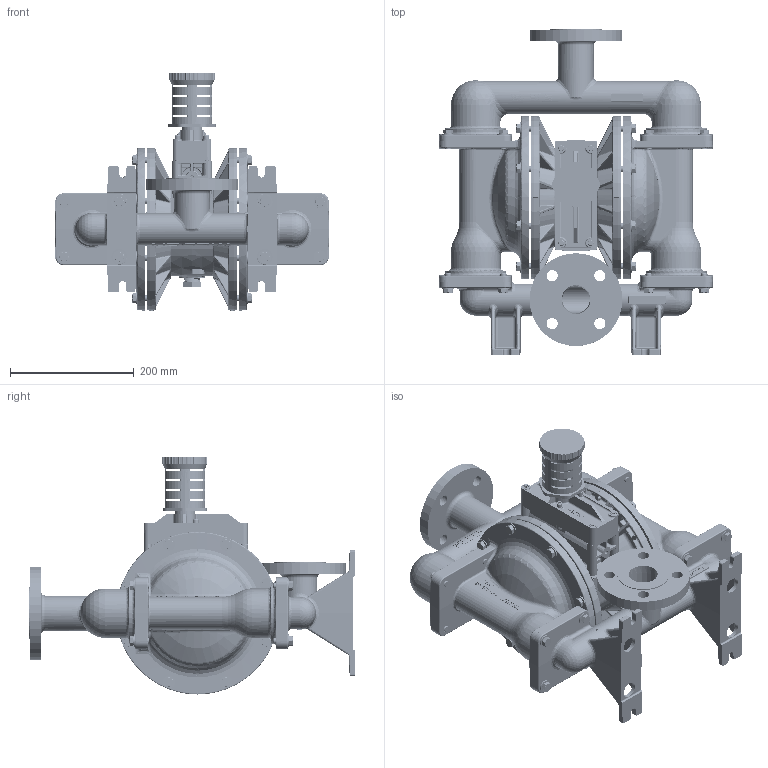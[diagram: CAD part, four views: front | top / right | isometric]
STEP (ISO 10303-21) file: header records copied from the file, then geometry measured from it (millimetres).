
FILE_DESCRIPTION((''),'2;1');
FILE_NAME('P430_SS_TOP_SW0002','2017-08-15T',('10013162'),(''),'PRO/ENGINEER BY PARAMETRIC TECHNOLOGY CORPORATION, 2015360','PRO/ENGINEER BY PARAMETRIC TECHNOLOGY CORPORATION, 2015360','');
FILE_SCHEMA(('CONFIG_CONTROL_DESIGN'));
Products named in the file (1): P430_SS_TOP_SW0002
Bounding box: 443.47 x 526.29 x 384.43 mm (x, y, z)
Volume: 6394609.8 mm3; surface area: 1674934.2 mm2
Topology: 1 solids, 1 shells, 11535 faces, 29422 edges, 18041 vertices
Faces by surface type: plane 5310, bspline 2281, cylinder 1698, torus 903, cone 856, sphere 417, extrusion 70
Entity records: 652463 total; most frequent: CARTESIAN_POINT 393496, ORIENTED_EDGE 58428, DIRECTION 47718, EDGE_CURVE 29214, VERTEX_POINT 18041, AXIS2_PLACEMENT_3D 16528, VECTOR 14662, LINE 14592
